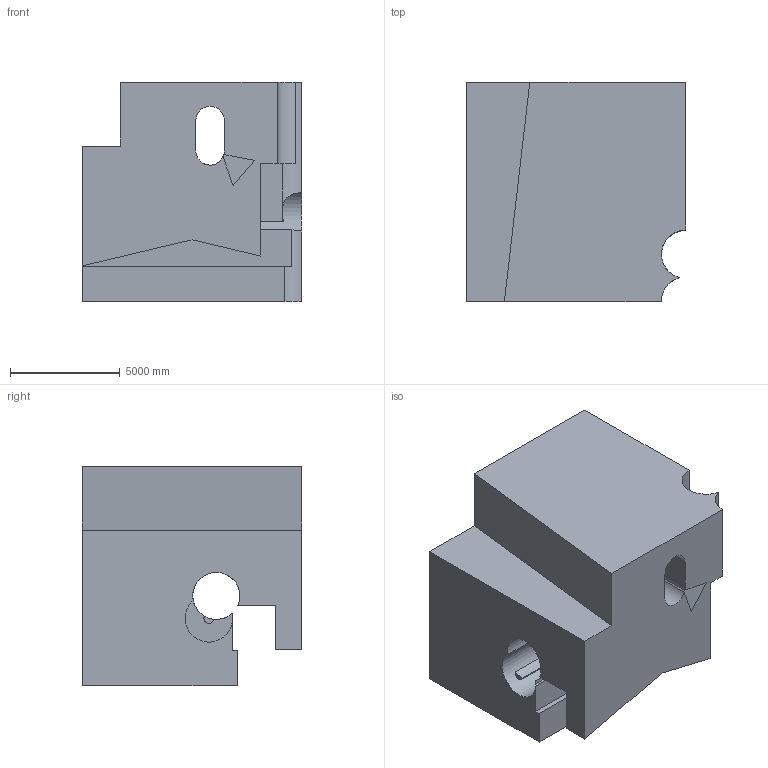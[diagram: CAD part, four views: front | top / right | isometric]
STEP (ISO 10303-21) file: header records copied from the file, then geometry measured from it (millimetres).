
FILE_DESCRIPTION (( 'STEP AP203' ), '1' );
FILE_NAME ('909.STEP', '2022-07-29T14:12:53', ( 'user' ), ( '' ), 'SwSTEP 2.0', 'SolidWorks 2021', '' );
FILE_SCHEMA (( 'CONFIG_CONTROL_DESIGN' ));
Length unit declared in the file: centimetre
Products named in the file (1): 909
Bounding box: 10000 x 10000 x 10000 mm (x, y, z)
Volume: 723493500786.4 mm3; surface area: 739873102.6 mm2
Topology: 1 solids, 1 shells, 40 faces, 114 edges, 76 vertices
Faces by surface type: plane 27, cylinder 13
Entity records: 1510 total; most frequent: CARTESIAN_POINT 353, ORIENTED_EDGE 228, DIRECTION 227, EDGE_CURVE 114, VECTOR 79, LINE 79, VERTEX_POINT 76, AXIS2_PLACEMENT_3D 74
